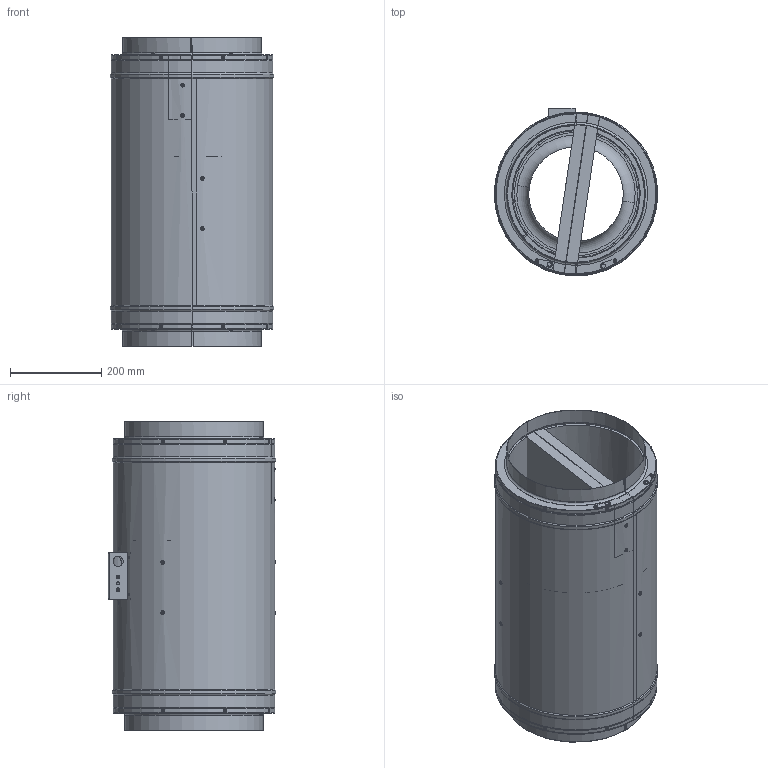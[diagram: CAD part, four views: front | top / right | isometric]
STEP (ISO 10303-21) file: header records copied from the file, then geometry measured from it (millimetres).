
FILE_DESCRIPTION (( 'STEP AP203' ), '1' );
FILE_NAME ('147518_02_ELIX012AC1S_step.step', '2022-06-14T06:13:02', ( '' ), ( '' ), 'SwSTEP 2.0', 'SolidWorks 2021', '' );
FILE_SCHEMA (( 'CONFIG_CONTROL_DESIGN' ));
Length unit declared in the file: millimetre
Products named in the file (1): 147518_02_ELIX012AC1S_step
Bounding box: 358 x 367 x 676 mm (x, y, z)
Surface area: 1775408.9 mm2 (no closed solid volume)
Topology: 0 solids, 55 shells, 359 faces, 1368 edges, 1030 vertices
Faces by surface type: cylinder 151, plane 98, torus 50, cone 44, bspline 16
Entity records: 18710 total; most frequent: CARTESIAN_POINT 7404, DIRECTION 2368, ORIENTED_EDGE 1931, EDGE_CURVE 1368, VERTEX_POINT 1030, AXIS2_PLACEMENT_3D 936, CIRCLE 592, LINE 496
